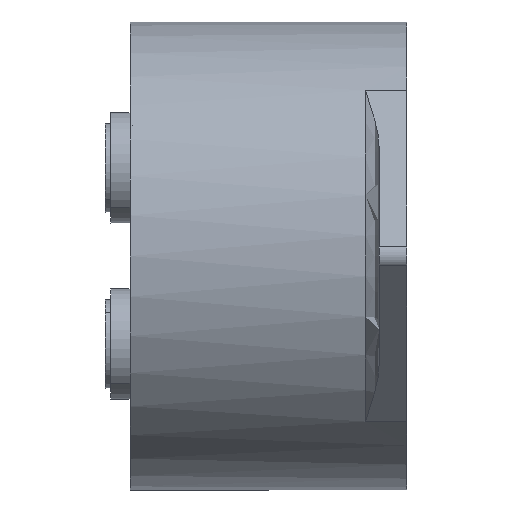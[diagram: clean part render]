
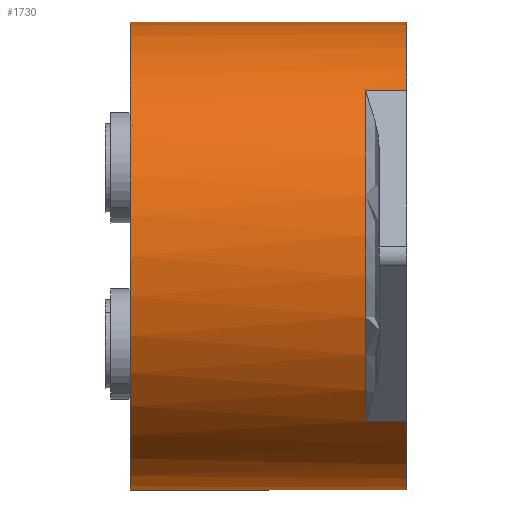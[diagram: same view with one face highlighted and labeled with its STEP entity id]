
A CAD part, left-side view. The second image highlights one B-rep face of the part: STEP entity #1730.
In plain terms, the highlighted cylindrical face has radius 42.25 mm (diameter 84.5 mm), a partial arc.
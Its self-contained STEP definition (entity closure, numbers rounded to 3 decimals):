
#26 = EDGE_CURVE ( 'NONE', #1178, #3874, #1732, .T. ) ;
#107 = VERTEX_POINT ( 'NONE', #4524 ) ;
#144 = DIRECTION ( 'NONE',  ( 0., -1., 0. ) ) ;
#296 = DIRECTION ( 'NONE',  ( 0., 0., -1. ) ) ;
#312 = FACE_OUTER_BOUND ( 'NONE', #1355, .T. ) ;
#377 = DIRECTION ( 'NONE',  ( 0., -1., 0. ) ) ;
#529 = VECTOR ( 'NONE', #2419, 1000. ) ;
#579 = CARTESIAN_POINT ( 'NONE',  ( 0., 50., -42.25 ) ) ;
#596 = CARTESIAN_POINT ( 'NONE',  ( 0., 0., 42.25 ) ) ;
#739 = DIRECTION ( 'NONE',  ( 0., -1., 0. ) ) ;
#742 = CARTESIAN_POINT ( 'NONE',  ( 0., 0., 0. ) ) ;
#749 = CARTESIAN_POINT ( 'NONE',  ( 0., 0., 0. ) ) ;
#811 = ORIENTED_EDGE ( 'NONE', *, *, #3200, .T. ) ;
#834 = DIRECTION ( 'NONE',  ( 0., 0., -1. ) ) ;
#1178 = VERTEX_POINT ( 'NONE', #579 ) ;
#1214 = CIRCLE ( 'NONE', #2060, 42.25 ) ;
#1294 = CIRCLE ( 'NONE', #5020, 42.25 ) ;
#1355 = EDGE_LOOP ( 'NONE', ( #4072, #4539, #4289, #2146, #3588, #811, #5174, #3804 ) ) ;
#1364 = VECTOR ( 'NONE', #3038, 1000. ) ;
#1380 = CARTESIAN_POINT ( 'NONE',  ( -29.857, 5., 29.894 ) ) ;
#1518 = LINE ( 'NONE', #1380, #529 ) ;
#1717 = DIRECTION ( 'NONE',  ( 0., 0., -1. ) ) ;
#1730 = ADVANCED_FACE ( 'NONE', ( #312 ), #4244, .T. ) ;
#1732 = LINE ( 'NONE', #1989, #3857 ) ;
#1739 = AXIS2_PLACEMENT_3D ( 'NONE', #6003, #739, #834 ) ;
#1749 = CARTESIAN_POINT ( 'NONE',  ( -29.857, 0., 29.894 ) ) ;
#1815 = DIRECTION ( 'NONE',  ( 0., 0., -1. ) ) ;
#1843 = DIRECTION ( 'NONE',  ( 0., -1., 0. ) ) ;
#1989 = CARTESIAN_POINT ( 'NONE',  ( 0., 0., -42.25 ) ) ;
#2060 = AXIS2_PLACEMENT_3D ( 'NONE', #4966, #1843, #4991 ) ;
#2146 = ORIENTED_EDGE ( 'NONE', *, *, #4379, .F. ) ;
#2159 = CARTESIAN_POINT ( 'NONE',  ( -29.857, 0., -29.894 ) ) ;
#2341 = EDGE_CURVE ( 'NONE', #107, #3637, #5958, .T. ) ;
#2419 = DIRECTION ( 'NONE',  ( 0., -1., 0. ) ) ;
#2677 = VERTEX_POINT ( 'NONE', #6211 ) ;
#3038 = DIRECTION ( 'NONE',  ( 0., -1., 0. ) ) ;
#3200 = EDGE_CURVE ( 'NONE', #4615, #2677, #1294, .T. ) ;
#3304 = DIRECTION ( 'NONE',  ( 0., -1., 0. ) ) ;
#3330 = DIRECTION ( 'NONE',  ( 0., 1., 0. ) ) ;
#3544 = VERTEX_POINT ( 'NONE', #2159 ) ;
#3588 = ORIENTED_EDGE ( 'NONE', *, *, #5838, .F. ) ;
#3591 = CIRCLE ( 'NONE', #5938, 42.25 ) ;
#3637 = VERTEX_POINT ( 'NONE', #3807 ) ;
#3727 = LINE ( 'NONE', #6191, #1364 ) ;
#3785 = EDGE_CURVE ( 'NONE', #3637, #6084, #5782, .T. ) ;
#3804 = ORIENTED_EDGE ( 'NONE', *, *, #3785, .F. ) ;
#3807 = CARTESIAN_POINT ( 'NONE',  ( 0., 0., 42.25 ) ) ;
#3857 = VECTOR ( 'NONE', #377, 1000. ) ;
#3874 = VERTEX_POINT ( 'NONE', #3932 ) ;
#3932 = CARTESIAN_POINT ( 'NONE',  ( 0., 0., -42.25 ) ) ;
#4072 = ORIENTED_EDGE ( 'NONE', *, *, #2341, .F. ) ;
#4244 = CYLINDRICAL_SURFACE ( 'NONE', #4781, 42.25 ) ;
#4289 = ORIENTED_EDGE ( 'NONE', *, *, #26, .T. ) ;
#4379 = EDGE_CURVE ( 'NONE', #3544, #3874, #3591, .T. ) ;
#4457 = EDGE_CURVE ( 'NONE', #107, #1178, #1214, .T. ) ;
#4524 = CARTESIAN_POINT ( 'NONE',  ( 0., 50., 42.25 ) ) ;
#4539 = ORIENTED_EDGE ( 'NONE', *, *, #4457, .T. ) ;
#4615 = VERTEX_POINT ( 'NONE', #6053 ) ;
#4781 = AXIS2_PLACEMENT_3D ( 'NONE', #742, #3304, #1815 ) ;
#4795 = CARTESIAN_POINT ( 'NONE',  ( 0., 7.5, 0. ) ) ;
#4966 = CARTESIAN_POINT ( 'NONE',  ( 0., 50., 0. ) ) ;
#4991 = DIRECTION ( 'NONE',  ( 0., 0., -1. ) ) ;
#5020 = AXIS2_PLACEMENT_3D ( 'NONE', #4795, #3330, #1717 ) ;
#5063 = VECTOR ( 'NONE', #6412, 1000. ) ;
#5174 = ORIENTED_EDGE ( 'NONE', *, *, #6756, .T. ) ;
#5782 = CIRCLE ( 'NONE', #1739, 42.25 ) ;
#5838 = EDGE_CURVE ( 'NONE', #4615, #3544, #3727, .T. ) ;
#5938 = AXIS2_PLACEMENT_3D ( 'NONE', #749, #144, #296 ) ;
#5958 = LINE ( 'NONE', #596, #5063 ) ;
#6003 = CARTESIAN_POINT ( 'NONE',  ( 0., 0., 0. ) ) ;
#6053 = CARTESIAN_POINT ( 'NONE',  ( -29.857, 7.5, -29.894 ) ) ;
#6084 = VERTEX_POINT ( 'NONE', #1749 ) ;
#6191 = CARTESIAN_POINT ( 'NONE',  ( -29.857, 5., -29.894 ) ) ;
#6211 = CARTESIAN_POINT ( 'NONE',  ( -29.857, 7.5, 29.894 ) ) ;
#6412 = DIRECTION ( 'NONE',  ( 0., -1., 0. ) ) ;
#6756 = EDGE_CURVE ( 'NONE', #2677, #6084, #1518, .T. ) ;
